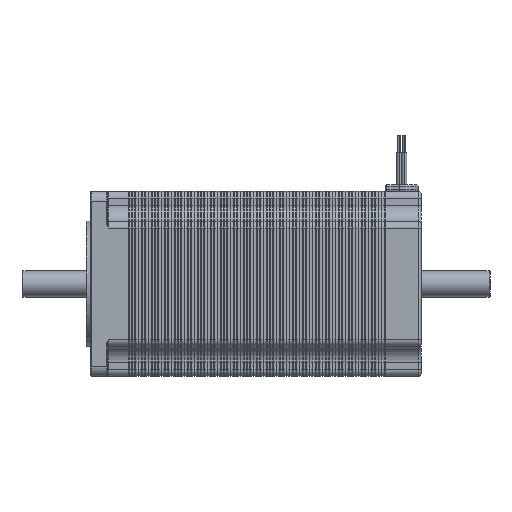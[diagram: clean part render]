
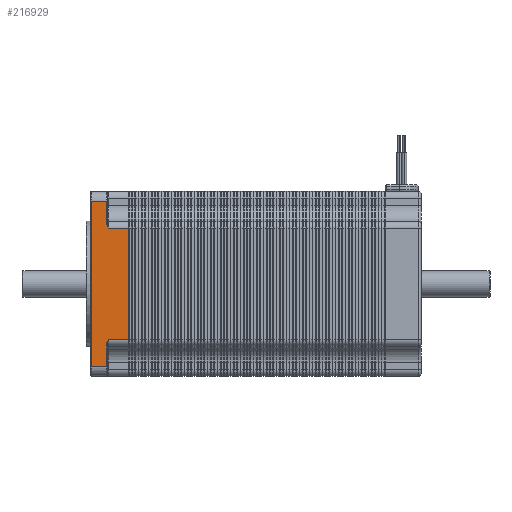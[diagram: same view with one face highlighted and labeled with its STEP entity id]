
A CAD part, left-side view. The second image highlights one B-rep face of the part: STEP entity #216929.
In plain terms, the highlighted planar face has unit normal (-1, 0, 0).
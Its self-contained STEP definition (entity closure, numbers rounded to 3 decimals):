
#193 = VERTEX_POINT ( 'NONE', #92876 ) ;
#3484 = DIRECTION ( 'NONE',  ( 0., 1., 0. ) ) ;
#4713 = CARTESIAN_POINT ( 'NONE',  ( -28.15, 95.7, -18.265 ) ) ;
#6568 = CARTESIAN_POINT ( 'NONE',  ( -28.15, 95.642, 17.823 ) ) ;
#7831 = ORIENTED_EDGE ( 'NONE', *, *, #187293, .T. ) ;
#9612 = VERTEX_POINT ( 'NONE', #244196 ) ;
#10107 = CARTESIAN_POINT ( 'NONE',  ( -28.15, 100.3, -25.15 ) ) ;
#16588 = LINE ( 'NONE', #96227, #67507 ) ;
#19611 = CARTESIAN_POINT ( 'NONE',  ( -28.15, 95.5, -25.15 ) ) ;
#20085 = VECTOR ( 'NONE', #3484, 1000. ) ;
#24476 = DIRECTION ( 'NONE',  ( 0., -1., 0. ) ) ;
#30060 = CARTESIAN_POINT ( 'NONE',  ( -28.15, 89.1, 17. ) ) ;
#31312 = CARTESIAN_POINT ( 'NONE',  ( -28.15, 95.7, -17. ) ) ;
#32132 = VERTEX_POINT ( 'NONE', #180023 ) ;
#32971 = EDGE_CURVE ( 'NONE', #130407, #195205, #55453, .T. ) ;
#33757 = EDGE_CURVE ( 'NONE', #181313, #179677, #95412, .T. ) ;
#33884 = CARTESIAN_POINT ( 'NONE',  ( -28.15, 100.5, -17. ) ) ;
#34251 = VERTEX_POINT ( 'NONE', #233235 ) ;
#35405 = ORIENTED_EDGE ( 'NONE', *, *, #46199, .T. ) ;
#37781 = DIRECTION ( 'NONE',  ( 1., 0., 0. ) ) ;
#41133 = VECTOR ( 'NONE', #207563, 1000. ) ;
#46199 = EDGE_CURVE ( 'NONE', #250877, #34251, #242763, .T. ) ;
#50129 = LINE ( 'NONE', #71016, #180402 ) ;
#52141 = DIRECTION ( 'NONE',  ( 0., 0., 1. ) ) ;
#54868 = DIRECTION ( 'NONE',  ( 0., 1., 0. ) ) ;
#55453 = LINE ( 'NONE', #213853, #169292 ) ;
#56779 = VECTOR ( 'NONE', #54868, 1000. ) ;
#67507 = VECTOR ( 'NONE', #79189, 1000. ) ;
#71016 = CARTESIAN_POINT ( 'NONE',  ( -28.15, 100.5, 17. ) ) ;
#73091 = LINE ( 'NONE', #31312, #225160 ) ;
#77121 = EDGE_CURVE ( 'NONE', #32132, #130407, #170832, .T. ) ;
#77785 = AXIS2_PLACEMENT_3D ( 'NONE', #33884, #37781, #117427 ) ;
#79189 = DIRECTION ( 'NONE',  ( 0., 0., -1. ) ) ;
#81385 = CARTESIAN_POINT ( 'NONE',  ( -28.15, 95.7, -17. ) ) ;
#84348 = CARTESIAN_POINT ( 'NONE',  ( -28.15, 95.3, -17. ) ) ;
#86787 = B_SPLINE_CURVE_WITH_KNOTS ( 'NONE', 3,
 ( #205354, #105840, #185720, #6568, #235226, #154096 ),
 .UNSPECIFIED., .F., .F.,
 ( 4, 2, 4 ),
 ( 0., 0.001, 0.001 ),
 .UNSPECIFIED. ) ;
#88238 = ORIENTED_EDGE ( 'NONE', *, *, #33757, .F. ) ;
#90895 = DIRECTION ( 'NONE',  ( 0., 0., 1. ) ) ;
#92876 = CARTESIAN_POINT ( 'NONE',  ( -28.15, 95.7, 18.265 ) ) ;
#95412 = LINE ( 'NONE', #19611, #56779 ) ;
#96227 = CARTESIAN_POINT ( 'NONE',  ( -28.15, 100.3, -25.15 ) ) ;
#97943 = EDGE_LOOP ( 'NONE', ( #35405, #143904, #88238, #236324, #114594, #236375, #117162, #203566, #169491, #7831 ) ) ;
#105296 = VERTEX_POINT ( 'NONE', #211701 ) ;
#105840 = CARTESIAN_POINT ( 'NONE',  ( -28.15, 95.395, 17.202 ) ) ;
#106525 = CARTESIAN_POINT ( 'NONE',  ( -28.15, 95.7, -18.04 ) ) ;
#111123 = EDGE_CURVE ( 'NONE', #105296, #195205, #50129, .T. ) ;
#114594 = ORIENTED_EDGE ( 'NONE', *, *, #194056, .T. ) ;
#117162 = ORIENTED_EDGE ( 'NONE', *, *, #32971, .T. ) ;
#117427 = DIRECTION ( 'NONE',  ( 0., 0., -1. ) ) ;
#117968 = LINE ( 'NONE', #81385, #213792 ) ;
#122206 = CARTESIAN_POINT ( 'NONE',  ( -28.15, 95.491, -17.403 ) ) ;
#124126 = CARTESIAN_POINT ( 'NONE',  ( -28.15, 95.7, -25.15 ) ) ;
#129590 = EDGE_CURVE ( 'NONE', #181313, #9612, #73091, .T. ) ;
#130407 = VERTEX_POINT ( 'NONE', #245681 ) ;
#143904 = ORIENTED_EDGE ( 'NONE', *, *, #255242, .T. ) ;
#154096 = CARTESIAN_POINT ( 'NONE',  ( -28.15, 95.7, 18.265 ) ) ;
#162861 = CARTESIAN_POINT ( 'NONE',  ( -28.15, 95.642, -17.823 ) ) ;
#169292 = VECTOR ( 'NONE', #90895, 1000. ) ;
#169491 = ORIENTED_EDGE ( 'NONE', *, *, #244008, .T. ) ;
#170832 = LINE ( 'NONE', #225832, #41133 ) ;
#175658 = DIRECTION ( 'NONE',  ( 0., 0., 1. ) ) ;
#179677 = VERTEX_POINT ( 'NONE', #10107 ) ;
#180023 = CARTESIAN_POINT ( 'NONE',  ( -28.15, 95.3, -17. ) ) ;
#180402 = VECTOR ( 'NONE', #24476, 1000. ) ;
#181313 = VERTEX_POINT ( 'NONE', #124126 ) ;
#182609 = CARTESIAN_POINT ( 'NONE',  ( -28.15, 95.5, 25.15 ) ) ;
#185720 = CARTESIAN_POINT ( 'NONE',  ( -28.15, 95.491, 17.403 ) ) ;
#187293 = EDGE_CURVE ( 'NONE', #193, #250877, #117968, .T. ) ;
#192176 = PLANE ( 'NONE',  #77785 ) ;
#194056 = EDGE_CURVE ( 'NONE', #9612, #32132, #235825, .T. ) ;
#195205 = VERTEX_POINT ( 'NONE', #30060 ) ;
#202172 = CARTESIAN_POINT ( 'NONE',  ( -28.15, 95.395, -17.201 ) ) ;
#203566 = ORIENTED_EDGE ( 'NONE', *, *, #111123, .F. ) ;
#205354 = CARTESIAN_POINT ( 'NONE',  ( -28.15, 95.3, 17. ) ) ;
#207563 = DIRECTION ( 'NONE',  ( 0., -1., 0. ) ) ;
#211701 = CARTESIAN_POINT ( 'NONE',  ( -28.15, 95.3, 17. ) ) ;
#213792 = VECTOR ( 'NONE', #175658, 1000. ) ;
#213853 = CARTESIAN_POINT ( 'NONE',  ( -28.15, 89.1, -17. ) ) ;
#216929 = ADVANCED_FACE ( 'NONE', ( #216949 ), #192176, .F. ) ;
#216949 = FACE_OUTER_BOUND ( 'NONE', #97943, .T. ) ;
#225160 = VECTOR ( 'NONE', #52141, 1000. ) ;
#225832 = CARTESIAN_POINT ( 'NONE',  ( -28.15, 100.5, -17. ) ) ;
#233235 = CARTESIAN_POINT ( 'NONE',  ( -28.15, 100.3, 25.15 ) ) ;
#235226 = CARTESIAN_POINT ( 'NONE',  ( -28.15, 95.7, 18.04 ) ) ;
#235825 = B_SPLINE_CURVE_WITH_KNOTS ( 'NONE', 3,
 ( #4713, #106525, #162861, #122206, #202172, #84348 ),
 .UNSPECIFIED., .F., .F.,
 ( 4, 2, 4 ),
 ( 0., 0.001, 0.001 ),
 .UNSPECIFIED. ) ;
#236324 = ORIENTED_EDGE ( 'NONE', *, *, #129590, .T. ) ;
#236375 = ORIENTED_EDGE ( 'NONE', *, *, #77121, .T. ) ;
#242763 = LINE ( 'NONE', #182609, #20085 ) ;
#244008 = EDGE_CURVE ( 'NONE', #105296, #193, #86787, .T. ) ;
#244196 = CARTESIAN_POINT ( 'NONE',  ( -28.15, 95.7, -18.265 ) ) ;
#244744 = CARTESIAN_POINT ( 'NONE',  ( -28.15, 95.7, 25.15 ) ) ;
#245681 = CARTESIAN_POINT ( 'NONE',  ( -28.15, 89.1, -17. ) ) ;
#250877 = VERTEX_POINT ( 'NONE', #244744 ) ;
#255242 = EDGE_CURVE ( 'NONE', #34251, #179677, #16588, .T. ) ;
